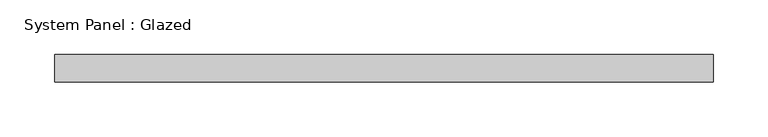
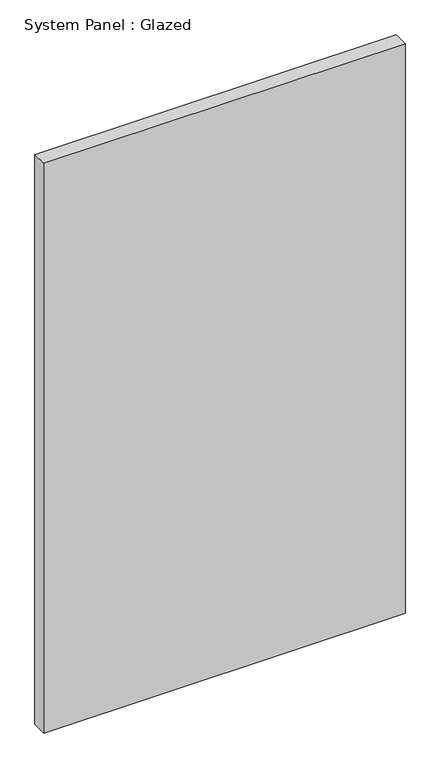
"""IFC4 building model written with IfcOpenShell, lengths in millimetres: plate geometry, System Panel : Glazed."""

from ifc_helpers import new_model, si_unit, origin, origin_with_axes, place, context, project, spatial, polyline, outline, extrude, source, transform, mapped, element, save


def system_panel_glazed_c3ce6646(model_context):
    return source(origin(), model_context, "Body", "SweptSolid", [
        extrude(outline(polyline([(300.0, 24.5), (-300.0, 24.5), (-300.0, 49.5), (300.0, 49.5), (300.0, 24.5)])), origin_with_axes(), (0.0, 0.0, 1.0), 1000.0),
    ])


if __name__ == "__main__":
    model = new_model("IFC4")
    model_context = context("Model", 3, world=origin())
    ifc_project = project(units=[si_unit("LENGTHUNIT", "METRE", prefix="MILLI")], contexts=[model_context])
    site = spatial("IfcSite", under=ifc_project)
    building = spatial("IfcBuilding", under=site)
    placement = place(None, origin())
    system_panel_glazed_shape = system_panel_glazed_c3ce6646(model_context)
    element("IfcPlate", 1, ObjectType="System Panel : Glazed", at=placement, inside=building, context=model_context, shape_type="MappedRepresentation", body=[
        mapped(system_panel_glazed_shape, transform((0.0, 0.0, 0.0), x_axis=(1.0, 0.0, 0.0), y_axis=(0.0, 1.0, 0.0), z_axis=(0.0, 0.0, 1.0))),
    ])
    save(model, "model.ifc")
